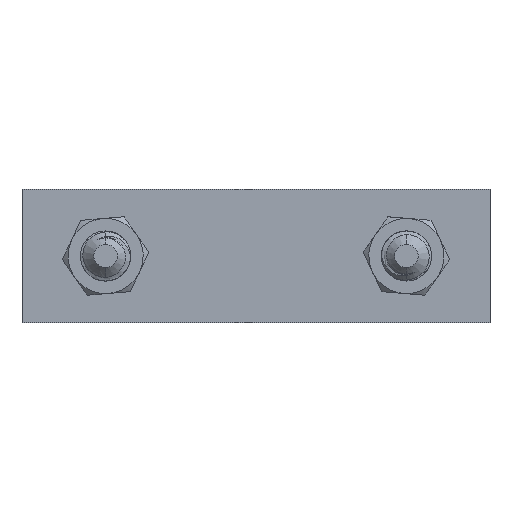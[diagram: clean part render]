
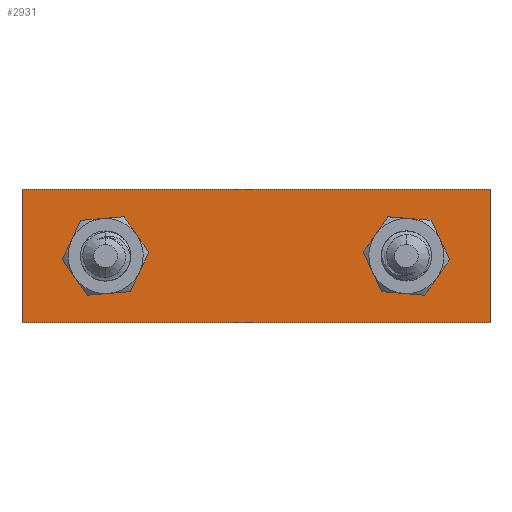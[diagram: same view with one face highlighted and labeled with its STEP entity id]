
A CAD part, front view. The second image highlights one B-rep face of the part: STEP entity #2931.
In plain terms, the highlighted planar face has unit normal (0, -1, 0).
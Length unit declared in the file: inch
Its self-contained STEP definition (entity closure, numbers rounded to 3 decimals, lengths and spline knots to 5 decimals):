
#98 = CARTESIAN_POINT ( 'NONE',  ( 3.5, 0.05, 0.49749 ) ) ;
#416 = EDGE_CURVE ( 'Edge12', #3466, #765, #9315, .T. ) ;
#463 = FACE_BOUND ( 'NONE', #5740, .T. ) ;
#471 = DIRECTION ( 'NONE',  ( 0., 0., -1. ) ) ;
#683 = LINE ( 'NONE', #7226, #10963 ) ;
#765 = VERTEX_POINT ( 'NONE', #10763 ) ;
#1307 = AXIS2_PLACEMENT_3D ( 'NONE', #8585, #6988, #4479 ) ;
#1731 = CARTESIAN_POINT ( 'NONE',  ( 3.5, 0.05, 0.49749 ) ) ;
#2167 = CARTESIAN_POINT ( 'NONE',  ( 2.875, 0.05, 0. ) ) ;
#2543 = ORIENTED_EDGE ( 'NONE', *, *, #416, .T. ) ;
#2557 = DIRECTION ( 'NONE',  ( 0., 0., -1. ) ) ;
#2613 = ORIENTED_EDGE ( 'NONE', *, *, #11995, .T. ) ;
#2931 = ADVANCED_FACE ( 'Face6', ( #463, #10719, #13222 ), #11721, .T. ) ;
#3327 = CARTESIAN_POINT ( 'NONE',  ( 0.625, 0.05, 0. ) ) ;
#3466 = VERTEX_POINT ( 'NONE', #15747 ) ;
#3714 = EDGE_CURVE ( 'Edge7', #3823, #8478, #7716, .T. ) ;
#3823 = VERTEX_POINT ( 'NONE', #13539 ) ;
#4273 = ORIENTED_EDGE ( 'NONE', *, *, #8572, .T. ) ;
#4336 = DIRECTION ( 'NONE',  ( 0., -1., 0. ) ) ;
#4342 = DIRECTION ( 'NONE',  ( 0., 1., 0. ) ) ;
#4366 = ORIENTED_EDGE ( 'NONE', *, *, #3714, .T. ) ;
#4479 = DIRECTION ( 'NONE',  ( 0., 0., 1. ) ) ;
#4805 = VECTOR ( 'NONE', #12627, 39.37008 ) ;
#4921 = CARTESIAN_POINT ( 'NONE',  ( 0., 0.05, 0.49749 ) ) ;
#5349 = EDGE_CURVE ( 'Edge13', #12930, #7135, #683, .T. ) ;
#5465 = LINE ( 'NONE', #98, #12606 ) ;
#5740 = EDGE_LOOP ( 'NONE', ( #2613, #4366 ) ) ;
#5910 = CARTESIAN_POINT ( 'NONE',  ( 3.5, 0.05, -0.49749 ) ) ;
#5919 = EDGE_LOOP ( 'NONE', ( #13975, #2543 ) ) ;
#6419 = CARTESIAN_POINT ( 'NONE',  ( 3.5, 0.05, 0.875 ) ) ;
#6424 = AXIS2_PLACEMENT_3D ( 'NONE', #14762, #4342, #471 ) ;
#6924 = ORIENTED_EDGE ( 'NONE', *, *, #12516, .F. ) ;
#6988 = DIRECTION ( 'NONE',  ( 0., 1., 0. ) ) ;
#7015 = EDGE_CURVE ( 'Edge6', #15807, #12930, #16176, .T. ) ;
#7135 = VERTEX_POINT ( 'NONE', #5910 ) ;
#7226 = CARTESIAN_POINT ( 'NONE',  ( 3.5, 0.05, -0.49749 ) ) ;
#7422 = ORIENTED_EDGE ( 'NONE', *, *, #5349, .T. ) ;
#7716 = CIRCLE ( 'NONE', #1307, 0.25 ) ;
#8064 = DIRECTION ( 'NONE',  ( -1., 0., 0. ) ) ;
#8096 = CARTESIAN_POINT ( 'NONE',  ( 0., 0.05, 0. ) ) ;
#8435 = DIRECTION ( 'NONE',  ( 0., 1., 0. ) ) ;
#8478 = VERTEX_POINT ( 'NONE', #11682 ) ;
#8572 = EDGE_CURVE ( 'NONE', #14051, #15807, #5465, .T. ) ;
#8585 = CARTESIAN_POINT ( 'NONE',  ( 2.875, 0.05, 0. ) ) ;
#8762 = CARTESIAN_POINT ( 'NONE',  ( 0., 0.05, 0. ) ) ;
#8854 = CIRCLE ( 'NONE', #6424, 0.25 ) ;
#9315 = CIRCLE ( 'NONE', #13056, 0.25 ) ;
#10240 = EDGE_LOOP ( 'NONE', ( #4273, #16596, #7422, #6924 ) ) ;
#10719 = FACE_OUTER_BOUND ( 'NONE', #10240, .T. ) ;
#10763 = CARTESIAN_POINT ( 'NONE',  ( 0.625, 0.05, -0.25 ) ) ;
#10963 = VECTOR ( 'NONE', #14807, 39.37008 ) ;
#11204 = AXIS2_PLACEMENT_3D ( 'NONE', #8096, #4336, #11882 ) ;
#11257 = VECTOR ( 'NONE', #2557, 39.37008 ) ;
#11397 = DIRECTION ( 'NONE',  ( 0., 1., 0. ) ) ;
#11682 = CARTESIAN_POINT ( 'NONE',  ( 2.875, 0.05, -0.25 ) ) ;
#11721 = PLANE ( 'NONE',  #11204 ) ;
#11882 = DIRECTION ( 'NONE',  ( 0., 0., -1. ) ) ;
#11995 = EDGE_CURVE ( 'Edge7', #8478, #3823, #15034, .T. ) ;
#12277 = EDGE_CURVE ( 'Edge12', #765, #3466, #8854, .T. ) ;
#12310 = DIRECTION ( 'NONE',  ( 0., 0., -1. ) ) ;
#12516 = EDGE_CURVE ( 'Edge10', #14051, #7135, #13985, .T. ) ;
#12606 = VECTOR ( 'NONE', #8064, 39.37008 ) ;
#12627 = DIRECTION ( 'NONE',  ( 0., 0., -1. ) ) ;
#12930 = VERTEX_POINT ( 'NONE', #13103 ) ;
#13056 = AXIS2_PLACEMENT_3D ( 'NONE', #3327, #8435, #12310 ) ;
#13103 = CARTESIAN_POINT ( 'NONE',  ( 0., 0.05, -0.49749 ) ) ;
#13222 = FACE_BOUND ( 'NONE', #5919, .T. ) ;
#13398 = AXIS2_PLACEMENT_3D ( 'NONE', #2167, #11397, #16386 ) ;
#13539 = CARTESIAN_POINT ( 'NONE',  ( 2.875, 0.05, 0.25 ) ) ;
#13975 = ORIENTED_EDGE ( 'NONE', *, *, #12277, .T. ) ;
#13985 = LINE ( 'NONE', #6419, #11257 ) ;
#14051 = VERTEX_POINT ( 'NONE', #1731 ) ;
#14762 = CARTESIAN_POINT ( 'NONE',  ( 0.625, 0.05, 0. ) ) ;
#14807 = DIRECTION ( 'NONE',  ( 1., 0., 0. ) ) ;
#15034 = CIRCLE ( 'NONE', #13398, 0.25 ) ;
#15747 = CARTESIAN_POINT ( 'NONE',  ( 0.625, 0.05, 0.25 ) ) ;
#15807 = VERTEX_POINT ( 'NONE', #4921 ) ;
#16176 = LINE ( 'NONE', #8762, #4805 ) ;
#16386 = DIRECTION ( 'NONE',  ( 0., 0., 1. ) ) ;
#16596 = ORIENTED_EDGE ( 'NONE', *, *, #7015, .T. ) ;
